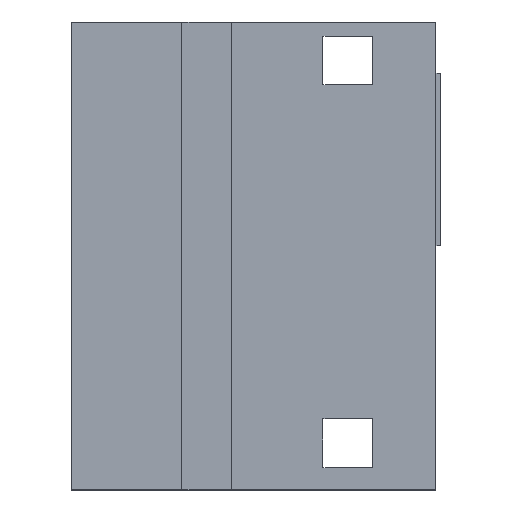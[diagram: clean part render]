
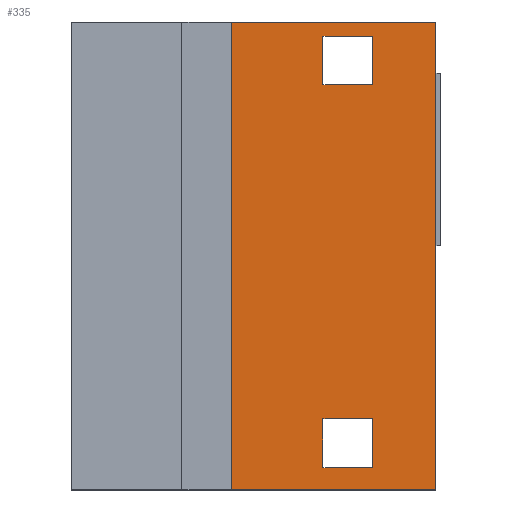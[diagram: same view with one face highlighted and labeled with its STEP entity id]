
A CAD part, top view. The second image highlights one B-rep face of the part: STEP entity #335.
In plain terms, the highlighted planar face has unit normal (0, 0, 1).
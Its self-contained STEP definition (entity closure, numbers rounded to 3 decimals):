
#64 = VERTEX_POINT('',#65);
#65 = CARTESIAN_POINT('',(36.8,43.45,137.35));
#103 = VERTEX_POINT('',#104);
#104 = CARTESIAN_POINT('',(22.67,43.45,137.35));
#110 = EDGE_CURVE('',#103,#64,#111,.T.);
#111 = LINE('',#112,#113);
#112 = CARTESIAN_POINT('',(11.6,43.45,137.35));
#113 = VECTOR('',#114,1.);
#114 = DIRECTION('',(1.,0.,-0.));
#151 = VERTEX_POINT('',#152);
#152 = CARTESIAN_POINT('',(36.8,11.1,137.35));
#183 = VERTEX_POINT('',#184);
#184 = CARTESIAN_POINT('',(22.67,11.1,137.35));
#190 = EDGE_CURVE('',#183,#151,#191,.T.);
#191 = LINE('',#192,#193);
#192 = CARTESIAN_POINT('',(11.6,11.1,137.35));
#193 = VECTOR('',#194,1.);
#194 = DIRECTION('',(1.,0.,-0.));
#253 = EDGE_CURVE('',#151,#64,#254,.T.);
#254 = LINE('',#255,#256);
#255 = CARTESIAN_POINT('',(36.8,11.1,137.35));
#256 = VECTOR('',#257,1.);
#257 = DIRECTION('',(-0.,1.,0.));
#335 = ADVANCED_FACE('',(#336,#347,#381),#415,.T.);
#336 = FACE_BOUND('',#337,.T.);
#337 = EDGE_LOOP('',(#338,#339,#345,#346));
#338 = ORIENTED_EDGE('',*,*,#110,.F.);
#339 = ORIENTED_EDGE('',*,*,#340,.F.);
#340 = EDGE_CURVE('',#183,#103,#341,.T.);
#341 = LINE('',#342,#343);
#342 = CARTESIAN_POINT('',(22.67,11.075,137.35));
#343 = VECTOR('',#344,1.);
#344 = DIRECTION('',(-0.,1.,0.));
#345 = ORIENTED_EDGE('',*,*,#190,.T.);
#346 = ORIENTED_EDGE('',*,*,#253,.T.);
#347 = FACE_BOUND('',#348,.T.);
#348 = EDGE_LOOP('',(#349,#359,#367,#375));
#349 = ORIENTED_EDGE('',*,*,#350,.T.);
#350 = EDGE_CURVE('',#351,#353,#355,.T.);
#351 = VERTEX_POINT('',#352);
#352 = CARTESIAN_POINT('',(32.45,12.65,137.35));
#353 = VERTEX_POINT('',#354);
#354 = CARTESIAN_POINT('',(29.,12.65,137.35));
#355 = LINE('',#356,#357);
#356 = CARTESIAN_POINT('',(20.3,12.65,137.35));
#357 = VECTOR('',#358,1.);
#358 = DIRECTION('',(-1.,-0.,0.));
#359 = ORIENTED_EDGE('',*,*,#360,.T.);
#360 = EDGE_CURVE('',#353,#361,#363,.T.);
#361 = VERTEX_POINT('',#362);
#362 = CARTESIAN_POINT('',(29.,16.03,137.35));
#363 = LINE('',#364,#365);
#364 = CARTESIAN_POINT('',(29.,11.875,137.35));
#365 = VECTOR('',#366,1.);
#366 = DIRECTION('',(-0.,1.,0.));
#367 = ORIENTED_EDGE('',*,*,#368,.F.);
#368 = EDGE_CURVE('',#369,#361,#371,.T.);
#369 = VERTEX_POINT('',#370);
#370 = CARTESIAN_POINT('',(32.45,16.03,137.35));
#371 = LINE('',#372,#373);
#372 = CARTESIAN_POINT('',(20.3,16.03,137.35));
#373 = VECTOR('',#374,1.);
#374 = DIRECTION('',(-1.,-0.,0.));
#375 = ORIENTED_EDGE('',*,*,#376,.F.);
#376 = EDGE_CURVE('',#351,#369,#377,.T.);
#377 = LINE('',#378,#379);
#378 = CARTESIAN_POINT('',(32.45,11.875,137.35));
#379 = VECTOR('',#380,1.);
#380 = DIRECTION('',(-0.,1.,0.));
#381 = FACE_BOUND('',#382,.T.);
#382 = EDGE_LOOP('',(#383,#393,#401,#409));
#383 = ORIENTED_EDGE('',*,*,#384,.T.);
#384 = EDGE_CURVE('',#385,#387,#389,.T.);
#385 = VERTEX_POINT('',#386);
#386 = CARTESIAN_POINT('',(32.45,39.1,137.35));
#387 = VERTEX_POINT('',#388);
#388 = CARTESIAN_POINT('',(29.,39.1,137.35));
#389 = LINE('',#390,#391);
#390 = CARTESIAN_POINT('',(20.3,39.1,137.35));
#391 = VECTOR('',#392,1.);
#392 = DIRECTION('',(-1.,-0.,0.));
#393 = ORIENTED_EDGE('',*,*,#394,.T.);
#394 = EDGE_CURVE('',#387,#395,#397,.T.);
#395 = VERTEX_POINT('',#396);
#396 = CARTESIAN_POINT('',(29.,42.48,137.35));
#397 = LINE('',#398,#399);
#398 = CARTESIAN_POINT('',(29.,25.1,137.35));
#399 = VECTOR('',#400,1.);
#400 = DIRECTION('',(-0.,1.,0.));
#401 = ORIENTED_EDGE('',*,*,#402,.F.);
#402 = EDGE_CURVE('',#403,#395,#405,.T.);
#403 = VERTEX_POINT('',#404);
#404 = CARTESIAN_POINT('',(32.45,42.48,137.35));
#405 = LINE('',#406,#407);
#406 = CARTESIAN_POINT('',(20.3,42.48,137.35));
#407 = VECTOR('',#408,1.);
#408 = DIRECTION('',(-1.,-0.,0.));
#409 = ORIENTED_EDGE('',*,*,#410,.F.);
#410 = EDGE_CURVE('',#385,#403,#411,.T.);
#411 = LINE('',#412,#413);
#412 = CARTESIAN_POINT('',(32.45,25.1,137.35));
#413 = VECTOR('',#414,1.);
#414 = DIRECTION('',(-0.,1.,0.));
#415 = PLANE('',#416);
#416 = AXIS2_PLACEMENT_3D('',#417,#418,#419);
#417 = CARTESIAN_POINT('',(11.6,11.1,137.35));
#418 = DIRECTION('',(0.,0.,1.));
#419 = DIRECTION('',(1.,0.,-0.));
